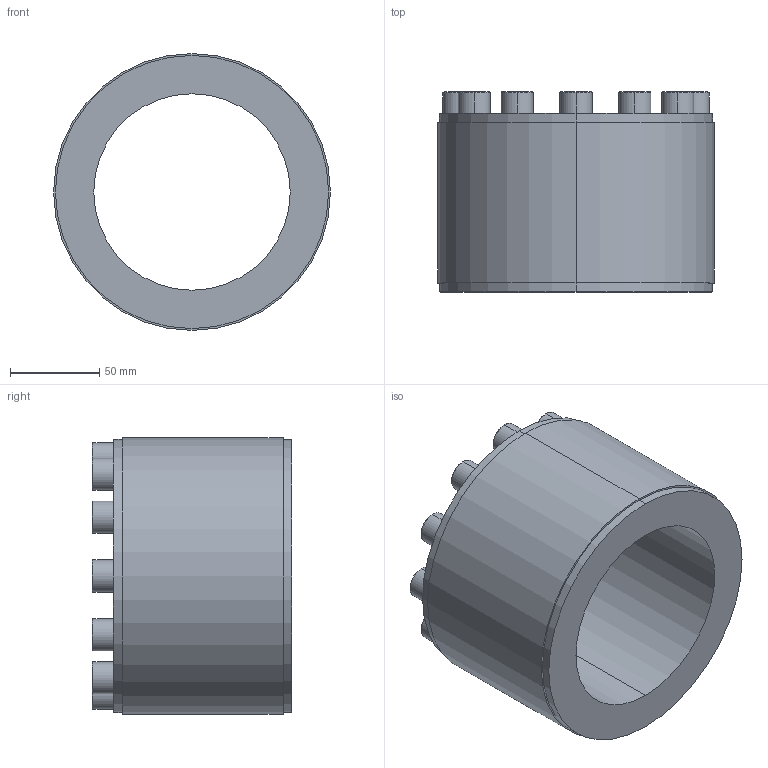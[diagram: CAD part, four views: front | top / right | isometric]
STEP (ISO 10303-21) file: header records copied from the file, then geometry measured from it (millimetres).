
FILE_DESCRIPTION (( 'STEP AP203' ), '1' );
FILE_NAME ('PL-D1 110-155.STEP', '2021-10-23T00:17:41', ( '' ), ( '' ), 'SwSTEP 2.0', 'SolidWorks 2018', '' );
FILE_SCHEMA (( 'CONFIG_CONTROL_DESIGN' ));
Length unit declared in the file: millimetre
Products named in the file (1): PL-D1 110-155
Bounding box: 155 x 112 x 155 mm (x, y, z)
Volume: 962121.5 mm3; surface area: 112411.3 mm2
Topology: 1 solids, 1 shells, 156 faces, 360 edges, 232 vertices
Faces by surface type: plane 100, cylinder 32, torus 24
Entity records: 4485 total; most frequent: DIRECTION 786, CARTESIAN_POINT 749, ORIENTED_EDGE 720, EDGE_CURVE 360, AXIS2_PLACEMENT_3D 269, LINE 248, VECTOR 248, VERTEX_POINT 232
